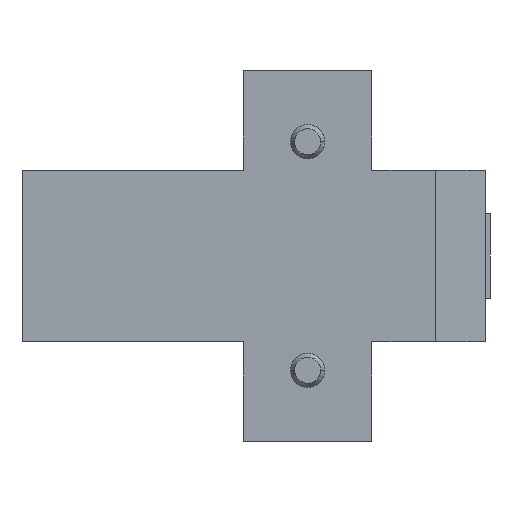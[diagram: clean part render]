
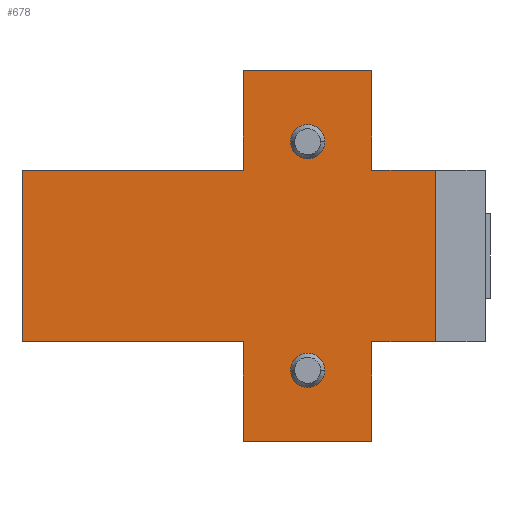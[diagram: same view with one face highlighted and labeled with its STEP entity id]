
A CAD part, left-side view. The second image highlights one B-rep face of the part: STEP entity #678.
In plain terms, the highlighted planar face has unit normal (-1, 0, 0).
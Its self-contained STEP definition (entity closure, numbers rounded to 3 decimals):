
#158 = ORIENTED_EDGE ( 'NONE', *, *, #1100, .F. ) ;
#159 = ORIENTED_EDGE ( 'NONE', *, *, #1197, .F. ) ;
#160 = ORIENTED_EDGE ( 'NONE', *, *, #1196, .T. ) ;
#161 = ORIENTED_EDGE ( 'NONE', *, *, #1195, .T. ) ;
#162 = ORIENTED_EDGE ( 'NONE', *, *, #1194, .T. ) ;
#163 = ORIENTED_EDGE ( 'NONE', *, *, #1193, .F. ) ;
#164 = ORIENTED_EDGE ( 'NONE', *, *, #1192, .F. ) ;
#165 = ORIENTED_EDGE ( 'NONE', *, *, #1191, .T. ) ;
#166 = ORIENTED_EDGE ( 'NONE', *, *, #1118, .F. ) ;
#167 = ORIENTED_EDGE ( 'NONE', *, *, #701, .F. ) ;
#168 = ORIENTED_EDGE ( 'NONE', *, *, #1566, .F. ) ;
#169 = ORIENTED_EDGE ( 'NONE', *, *, #1567, .F. ) ;
#170 = ORIENTED_EDGE ( 'NONE', *, *, #698, .T. ) ;
#291 = DIRECTION ( 'NONE',  ( 1., 0., 0. ) ) ;
#294 = FACE_BOUND ( 'NONE', #3555, .T. ) ;
#295 = CARTESIAN_POINT ( 'NONE',  ( 0., -12.007, -12. ) ) ;
#296 = FACE_OUTER_BOUND ( 'NONE', #3566, .T. ) ;
#298 = FACE_BOUND ( 'NONE', #3556, .T. ) ;
#299 = PLANE ( 'NONE',  #2792 ) ;
#300 = DIRECTION ( 'NONE',  ( 0., 0., -1. ) ) ;
#314 = VECTOR ( 'NONE', #2133, 1000. ) ;
#340 = VECTOR ( 'NONE', #2136, 1000. ) ;
#362 = VECTOR ( 'NONE', #1912, 1000. ) ;
#393 = VECTOR ( 'NONE', #2130, 1000. ) ;
#407 = VECTOR ( 'NONE', #2121, 1000. ) ;
#419 = VECTOR ( 'NONE', #2125, 1000. ) ;
#435 = VECTOR ( 'NONE', #1908, 1000. ) ;
#478 = VECTOR ( 'NONE', #2128, 1000. ) ;
#516 = CIRCLE ( 'NONE', #634, 2.4 ) ;
#565 = VECTOR ( 'NONE', #2432, 1000. ) ;
#634 = AXIS2_PLACEMENT_3D ( 'NONE', #2138, #2139, #2140 ) ;
#678 = ADVANCED_FACE ( 'NONE', ( #294, #296, #298 ), #299, .F. ) ;
#698 = EDGE_CURVE ( 'NONE', #776, #770, #3298, .T. ) ;
#699 = EDGE_CURVE ( 'NONE', #776, #772, #3297, .T. ) ;
#700 = EDGE_CURVE ( 'NONE', #780, #788, #2970, .T. ) ;
#701 = EDGE_CURVE ( 'NONE', #796, #773, #3311, .T. ) ;
#709 = EDGE_CURVE ( 'NONE', #788, #780, #2851, .T. ) ;
#742 = VERTEX_POINT ( 'NONE', #3406 ) ;
#750 = VERTEX_POINT ( 'NONE', #3432 ) ;
#768 = VERTEX_POINT ( 'NONE', #3450 ) ;
#769 = VERTEX_POINT ( 'NONE', #3451 ) ;
#770 = VERTEX_POINT ( 'NONE', #3452 ) ;
#772 = VERTEX_POINT ( 'NONE', #3454 ) ;
#773 = VERTEX_POINT ( 'NONE', #3455 ) ;
#776 = VERTEX_POINT ( 'NONE', #3458 ) ;
#780 = VERTEX_POINT ( 'NONE', #3462 ) ;
#782 = VERTEX_POINT ( 'NONE', #3464 ) ;
#788 = VERTEX_POINT ( 'NONE', #3470 ) ;
#793 = VERTEX_POINT ( 'NONE', #3475 ) ;
#796 = VERTEX_POINT ( 'NONE', #3478 ) ;
#799 = VERTEX_POINT ( 'NONE', #3481 ) ;
#804 = VERTEX_POINT ( 'NONE', #3486 ) ;
#808 = VERTEX_POINT ( 'NONE', #3490 ) ;
#1100 = EDGE_CURVE ( 'NONE', #799, #793, #2837, .T. ) ;
#1118 = EDGE_CURVE ( 'NONE', #782, #796, #2430, .T. ) ;
#1191 = EDGE_CURVE ( 'NONE', #782, #804, #2111, .T. ) ;
#1192 = EDGE_CURVE ( 'NONE', #768, #804, #2122, .T. ) ;
#1193 = EDGE_CURVE ( 'NONE', #742, #768, #2117, .T. ) ;
#1194 = EDGE_CURVE ( 'NONE', #742, #808, #2116, .T. ) ;
#1195 = EDGE_CURVE ( 'NONE', #808, #750, #2131, .T. ) ;
#1196 = EDGE_CURVE ( 'NONE', #750, #772, #2134, .T. ) ;
#1197 = EDGE_CURVE ( 'NONE', #793, #799, #516, .T. ) ;
#1566 = EDGE_CURVE ( 'NONE', #773, #769, #1898, .T. ) ;
#1567 = EDGE_CURVE ( 'NONE', #769, #770, #1909, .T. ) ;
#1898 = LINE ( 'NONE', #1899, #435 ) ;
#1899 = CARTESIAN_POINT ( 'NONE',  ( 0., -12.007, -12. ) ) ;
#1908 = DIRECTION ( 'NONE',  ( 0., 1., 0. ) ) ;
#1909 = LINE ( 'NONE', #1911, #362 ) ;
#1911 = CARTESIAN_POINT ( 'NONE',  ( 0., 40., -12. ) ) ;
#1912 = DIRECTION ( 'NONE',  ( 0., 0., 1. ) ) ;
#2111 = LINE ( 'NONE', #2112, #407 ) ;
#2112 = CARTESIAN_POINT ( 'NONE',  ( 0., -9., -26. ) ) ;
#2116 = LINE ( 'NONE', #2129, #393 ) ;
#2117 = LINE ( 'NONE', #2126, #478 ) ;
#2121 = DIRECTION ( 'NONE',  ( 0., 0., 1. ) ) ;
#2122 = LINE ( 'NONE', #2124, #419 ) ;
#2124 = CARTESIAN_POINT ( 'NONE',  ( 0., -12.007, -12. ) ) ;
#2125 = DIRECTION ( 'NONE',  ( 0., 1., 0. ) ) ;
#2126 = CARTESIAN_POINT ( 'NONE',  ( 0., -17.9, 30.452 ) ) ;
#2128 = DIRECTION ( 'NONE',  ( 0., 0., -1. ) ) ;
#2129 = CARTESIAN_POINT ( 'NONE',  ( 0., -12.007, 12. ) ) ;
#2130 = DIRECTION ( 'NONE',  ( 0., 1., 0. ) ) ;
#2131 = LINE ( 'NONE', #2132, #314 ) ;
#2132 = CARTESIAN_POINT ( 'NONE',  ( 0., -9., -26. ) ) ;
#2133 = DIRECTION ( 'NONE',  ( 0., 0., 1. ) ) ;
#2134 = LINE ( 'NONE', #2135, #340 ) ;
#2135 = CARTESIAN_POINT ( 'NONE',  ( 0., -9., 26. ) ) ;
#2136 = DIRECTION ( 'NONE',  ( 0., 1., 0. ) ) ;
#2138 = CARTESIAN_POINT ( 'NONE',  ( 0., 0., 16. ) ) ;
#2139 = DIRECTION ( 'NONE',  ( -1., 0., 0. ) ) ;
#2140 = DIRECTION ( 'NONE',  ( 0., 0., -1. ) ) ;
#2378 = CARTESIAN_POINT ( 'NONE',  ( 0., 0., 16. ) ) ;
#2379 = DIRECTION ( 'NONE',  ( -1., 0., 0. ) ) ;
#2380 = DIRECTION ( 'NONE',  ( 0., 0., -1. ) ) ;
#2430 = LINE ( 'NONE', #2431, #565 ) ;
#2431 = CARTESIAN_POINT ( 'NONE',  ( 0., -9., -26. ) ) ;
#2432 = DIRECTION ( 'NONE',  ( 0., 1., 0. ) ) ;
#2792 = AXIS2_PLACEMENT_3D ( 'NONE', #295, #291, #300 ) ;
#2821 = AXIS2_PLACEMENT_3D ( 'NONE', #3312, #3313, #3314 ) ;
#2837 = CIRCLE ( 'NONE', #3169, 2.4 ) ;
#2851 = CIRCLE ( 'NONE', #3006, 2.4 ) ;
#2859 = VECTOR ( 'NONE', #3316, 1000. ) ;
#2860 = VECTOR ( 'NONE', #3305, 1000. ) ;
#2970 = CIRCLE ( 'NONE', #2821, 2.4 ) ;
#3006 = AXIS2_PLACEMENT_3D ( 'NONE', #3337, #3338, #3339 ) ;
#3129 = VECTOR ( 'NONE', #3308, 1000. ) ;
#3169 = AXIS2_PLACEMENT_3D ( 'NONE', #2378, #2379, #2380 ) ;
#3297 = LINE ( 'NONE', #3306, #3129 ) ;
#3298 = LINE ( 'NONE', #3304, #2860 ) ;
#3304 = CARTESIAN_POINT ( 'NONE',  ( 0., -12.007, 12. ) ) ;
#3305 = DIRECTION ( 'NONE',  ( 0., 1., 0. ) ) ;
#3306 = CARTESIAN_POINT ( 'NONE',  ( 0., 9., -26. ) ) ;
#3307 = CARTESIAN_POINT ( 'NONE',  ( 0., 9., -26. ) ) ;
#3308 = DIRECTION ( 'NONE',  ( 0., 0., 1. ) ) ;
#3311 = LINE ( 'NONE', #3307, #2859 ) ;
#3312 = CARTESIAN_POINT ( 'NONE',  ( 0., 0., -16. ) ) ;
#3313 = DIRECTION ( 'NONE',  ( -1., 0., 0. ) ) ;
#3314 = DIRECTION ( 'NONE',  ( 0., 0., -1. ) ) ;
#3316 = DIRECTION ( 'NONE',  ( 0., 0., 1. ) ) ;
#3337 = CARTESIAN_POINT ( 'NONE',  ( 0., 0., -16. ) ) ;
#3338 = DIRECTION ( 'NONE',  ( -1., 0., 0. ) ) ;
#3339 = DIRECTION ( 'NONE',  ( 0., 0., -1. ) ) ;
#3406 = CARTESIAN_POINT ( 'NONE',  ( 0., -17.9, 12. ) ) ;
#3432 = CARTESIAN_POINT ( 'NONE',  ( 0., -9., 26. ) ) ;
#3450 = CARTESIAN_POINT ( 'NONE',  ( 0., -17.9, -12. ) ) ;
#3451 = CARTESIAN_POINT ( 'NONE',  ( 0., 40., -12. ) ) ;
#3452 = CARTESIAN_POINT ( 'NONE',  ( 0., 40., 12. ) ) ;
#3454 = CARTESIAN_POINT ( 'NONE',  ( 0., 9., 26. ) ) ;
#3455 = CARTESIAN_POINT ( 'NONE',  ( 0., 9., -12. ) ) ;
#3458 = CARTESIAN_POINT ( 'NONE',  ( 0., 9., 12. ) ) ;
#3462 = CARTESIAN_POINT ( 'NONE',  ( 0., -2.4, -16. ) ) ;
#3464 = CARTESIAN_POINT ( 'NONE',  ( 0., -9., -26. ) ) ;
#3470 = CARTESIAN_POINT ( 'NONE',  ( 0., 2.4, -16. ) ) ;
#3475 = CARTESIAN_POINT ( 'NONE',  ( 0., -2.4, 16. ) ) ;
#3478 = CARTESIAN_POINT ( 'NONE',  ( 0., 9., -26. ) ) ;
#3481 = CARTESIAN_POINT ( 'NONE',  ( 0., 2.4, 16. ) ) ;
#3486 = CARTESIAN_POINT ( 'NONE',  ( 0., -9., -12. ) ) ;
#3490 = CARTESIAN_POINT ( 'NONE',  ( 0., -9., 12. ) ) ;
#3555 = EDGE_LOOP ( 'NONE', ( #3662, #3661 ) ) ;
#3556 = EDGE_LOOP ( 'NONE', ( #159, #158 ) ) ;
#3566 = EDGE_LOOP ( 'NONE', ( #3660, #170, #169, #168, #167, #166, #165, #164, #163, #162, #161, #160 ) ) ;
#3660 = ORIENTED_EDGE ( 'NONE', *, *, #699, .F. ) ;
#3661 = ORIENTED_EDGE ( 'NONE', *, *, #709, .F. ) ;
#3662 = ORIENTED_EDGE ( 'NONE', *, *, #700, .F. ) ;
